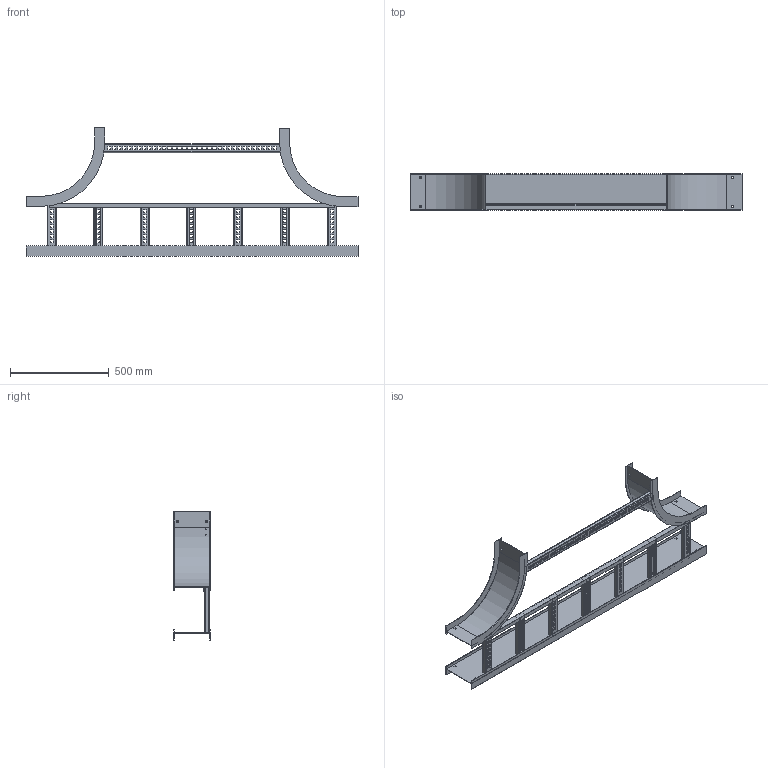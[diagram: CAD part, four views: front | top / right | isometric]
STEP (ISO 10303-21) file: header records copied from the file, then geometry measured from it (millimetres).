
FILE_DESCRIPTION((''),'2;1');
FILE_NAME('AHF70936LET12_ASM','2010-01-28T',('erouzier'),(''),'PRO/ENGINEER BY PARAMETRIC TECHNOLOGY CORPORATION, 2008510','PRO/ENGINEER BY PARAMETRIC TECHNOLOGY CORPORATION, 2008510','');
FILE_SCHEMA(('CONFIG_CONTROL_DESIGN'));
Length unit declared in the file: inch
Products named in the file (12): CDS001813-7-90-12-I; CDS013848-7-66; CDS000495_GEN_AF7; CDS002159L9-P_AF8; CDS002159L9-P_AF9; CDS002159L9-P_AF10; CDS002159L9-P_AF11; CDS002159L9-P_AF12; CDS002159L9-P_AF13; CDS002159L9-P_AF14; CDS002159L36-P_AF1; AHF70936LET12_ASM
Assembly tree (12 placements, depth 2):
  AHF70936LET12_ASM
    CDS001813-7-90-12-I  x2
    CDS013848-7-66
    CDS000495_GEN_AF7
    CDS002159L9-P_AF8
    CDS002159L9-P_AF9
    CDS002159L9-P_AF10
    CDS002159L9-P_AF11
    CDS002159L9-P_AF12
    CDS002159L9-P_AF13
    CDS002159L9-P_AF14
    CDS002159L36-P_AF1
Bounding box: 1681.99 x 183.9 x 648.72 mm (x, y, z)
Volume: 2724572.1 mm3; surface area: 2422572.1 mm2
Topology: 12 solids, 12 shells, 1028 faces, 3012 edges, 2008 vertices
Faces by surface type: plane 596, cylinder 432
Entity records: 33556 total; most frequent: CARTESIAN_POINT 5830, ORIENTED_EDGE 5784, DIRECTION 5764, EDGE_CURVE 2892, VECTOR 2040, LINE 2040, VERTEX_POINT 1928, AXIS2_PLACEMENT_3D 1862
